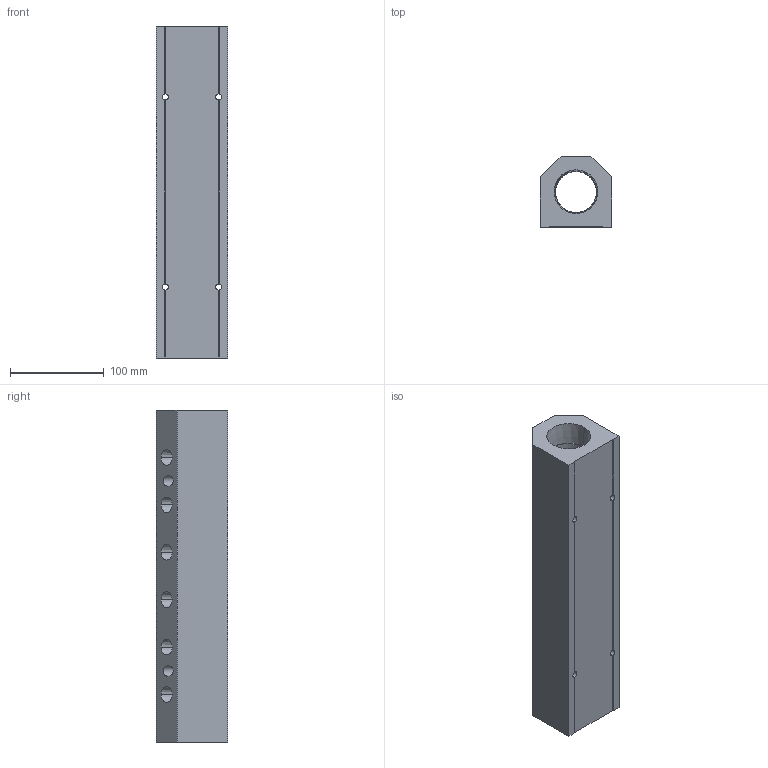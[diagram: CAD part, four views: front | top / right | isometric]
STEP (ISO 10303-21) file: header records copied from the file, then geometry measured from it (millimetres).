
FILE_DESCRIPTION (( 'STEP AP214' ), '1' );
FILE_NAME ('ALM6BD-N6N24-355R.step', '2022-02-07T07:58:09', ( '' ), ( '' ), 'SwSTEP 2.0', 'SolidWorks 2020', '' );
FILE_SCHEMA (( 'AUTOMOTIVE_DESIGN' ));
Length unit declared in the file: millimetre
Products named in the file (1): ALM6BD-N6N24-355R
Bounding box: 76.2 x 76.2 x 355 mm (x, y, z)
Volume: 1278648.2 mm3; surface area: 166588.6 mm2
Topology: 1 solids, 1 shells, 329 faces, 874 edges, 580 vertices
Faces by surface type: plane 207, bspline 76, cone 28, cylinder 18
Entity records: 18956 total; most frequent: CARTESIAN_POINT 8142, ORIENTED_EDGE 1748, DIRECTION 1250, EDGE_CURVE 874, LINE 622, VECTOR 622, VERTEX_POINT 580, EDGE_LOOP 396
